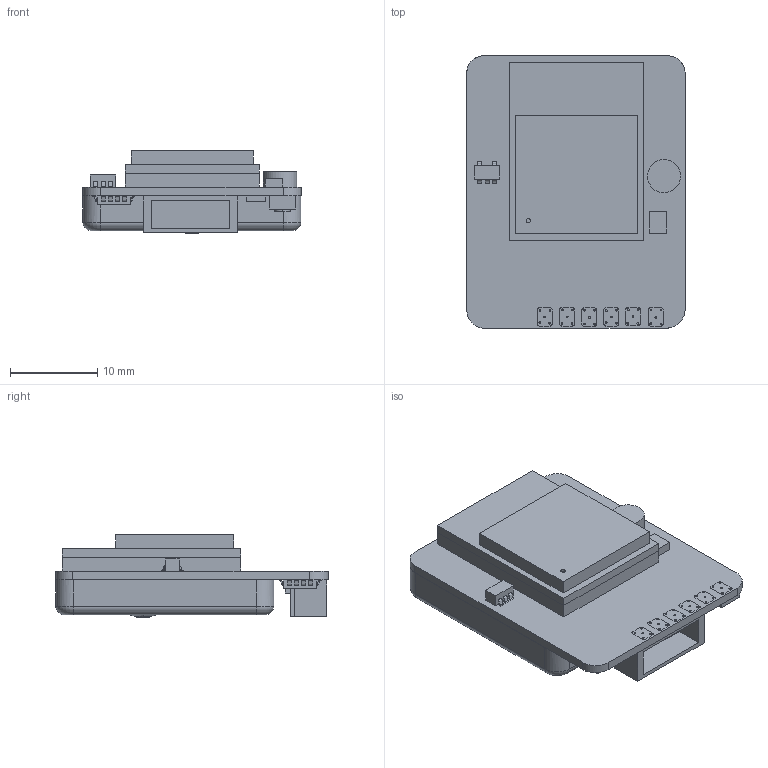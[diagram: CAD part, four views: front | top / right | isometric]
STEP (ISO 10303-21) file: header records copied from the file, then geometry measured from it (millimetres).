
FILE_DESCRIPTION (( 'STEP AP214' ), '1' );
FILE_NAME ('Bee ID Pro.STEP', '2026-03-26T02:41:12', ( '' ), ( '' ), 'SwSTEP 2.0', 'SolidWorks 2024', '' );
FILE_SCHEMA (( 'AUTOMOTIVE_DESIGN' ));
Length unit declared in the file: millimetre
Products named in the file (1): Bee ID Pro
Bounding box: 25.03 x 31.23 x 9.5 mm (x, y, z)
Volume: 4280.5 mm3; surface area: 3022.1 mm2
Topology: 1 solids, 1 shells, 243 faces, 629 edges, 438 vertices
Faces by surface type: plane 173, bspline 46, cylinder 20, torus 4
Entity records: 18227 total; most frequent: CARTESIAN_POINT 13534, ORIENTED_EDGE 1258, EDGE_CURVE 629, B_SPLINE_CURVE_WITH_KNOTS 493, DIRECTION 442, VERTEX_POINT 438, EDGE_LOOP 335, ADVANCED_FACE 243
